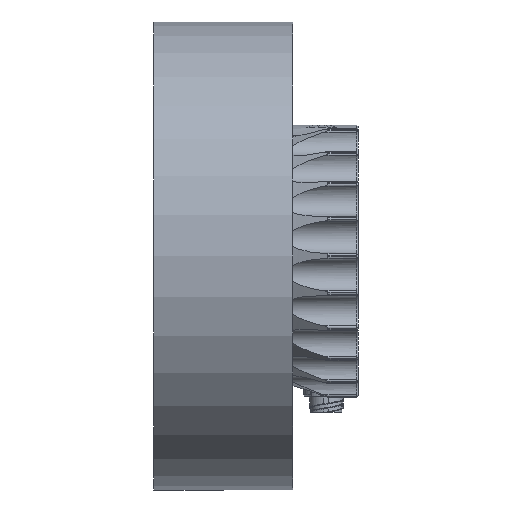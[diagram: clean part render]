
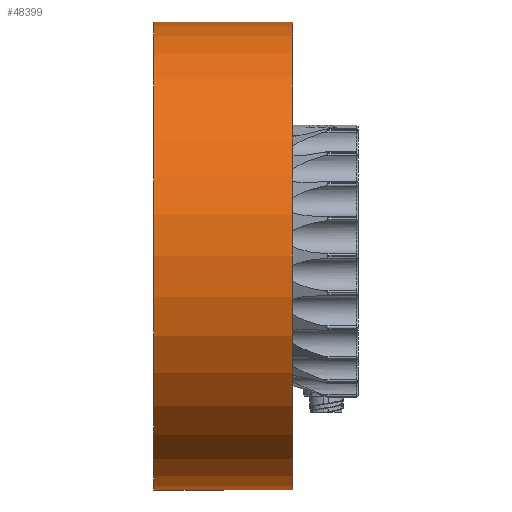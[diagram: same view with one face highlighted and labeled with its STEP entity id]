
A CAD part, left-side view. The second image highlights one B-rep face of the part: STEP entity #48399.
In plain terms, the highlighted cylindrical face has radius 69.759 mm (diameter 139.518 mm), a partial arc.
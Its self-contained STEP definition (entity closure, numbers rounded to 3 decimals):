
#679 = CARTESIAN_POINT ( 'NONE',  ( 0., 65.5, 0. ) ) ;
#3032 = ORIENTED_EDGE ( 'NONE', *, *, #9591, .F. ) ;
#3704 = CARTESIAN_POINT ( 'NONE',  ( 0., 60.939, 69.759 ) ) ;
#4370 = FACE_OUTER_BOUND ( 'NONE', #17974, .T. ) ;
#4532 = DIRECTION ( 'NONE',  ( 0., 1., 0. ) ) ;
#5841 = VERTEX_POINT ( 'NONE', #25900 ) ;
#9591 = EDGE_CURVE ( 'NONE', #29011, #23343, #23223, .T. ) ;
#15602 = DIRECTION ( 'NONE',  ( 0., 0., 1. ) ) ;
#16961 = EDGE_CURVE ( 'NONE', #5841, #26738, #42100, .T. ) ;
#17659 = EDGE_CURVE ( 'NONE', #29011, #5841, #34233, .T. ) ;
#17873 = AXIS2_PLACEMENT_3D ( 'NONE', #42625, #27728, #24024 ) ;
#17974 = EDGE_LOOP ( 'NONE', ( #3032, #48578, #47948, #32426 ) ) ;
#18350 = AXIS2_PLACEMENT_3D ( 'NONE', #30899, #27176, #46042 ) ;
#22303 = VECTOR ( 'NONE', #4532, 1000. ) ;
#23223 = LINE ( 'NONE', #41848, #22303 ) ;
#23343 = VERTEX_POINT ( 'NONE', #26628 ) ;
#24024 = DIRECTION ( 'NONE',  ( 0., 0., 1. ) ) ;
#25900 = CARTESIAN_POINT ( 'NONE',  ( 0., 19.517, 69.759 ) ) ;
#26628 = CARTESIAN_POINT ( 'NONE',  ( 0., 60.939, -69.759 ) ) ;
#26738 = VERTEX_POINT ( 'NONE', #3704 ) ;
#27176 = DIRECTION ( 'NONE',  ( 0., 1., 0. ) ) ;
#27728 = DIRECTION ( 'NONE',  ( 0., 1., 0. ) ) ;
#28082 = EDGE_CURVE ( 'NONE', #23343, #26738, #29752, .T. ) ;
#29011 = VERTEX_POINT ( 'NONE', #42948 ) ;
#29752 = CIRCLE ( 'NONE', #17873, 69.759 ) ;
#30899 = CARTESIAN_POINT ( 'NONE',  ( 0., 19.517, 0. ) ) ;
#31459 = DIRECTION ( 'NONE',  ( 0., 1., 0. ) ) ;
#32426 = ORIENTED_EDGE ( 'NONE', *, *, #28082, .F. ) ;
#34233 = CIRCLE ( 'NONE', #18350, 69.759 ) ;
#35140 = CARTESIAN_POINT ( 'NONE',  ( 0., 65.5, 69.759 ) ) ;
#37894 = AXIS2_PLACEMENT_3D ( 'NONE', #679, #31459, #15602 ) ;
#38645 = DIRECTION ( 'NONE',  ( 0., 1., 0. ) ) ;
#41848 = CARTESIAN_POINT ( 'NONE',  ( 0., 65.5, -69.759 ) ) ;
#41923 = CYLINDRICAL_SURFACE ( 'NONE', #37894, 69.759 ) ;
#42100 = LINE ( 'NONE', #35140, #42891 ) ;
#42625 = CARTESIAN_POINT ( 'NONE',  ( 0., 60.939, 0. ) ) ;
#42891 = VECTOR ( 'NONE', #38645, 1000. ) ;
#42948 = CARTESIAN_POINT ( 'NONE',  ( 0., 19.517, -69.759 ) ) ;
#46042 = DIRECTION ( 'NONE',  ( 0., 0., 1. ) ) ;
#47948 = ORIENTED_EDGE ( 'NONE', *, *, #16961, .T. ) ;
#48399 = ADVANCED_FACE ( 'NONE', ( #4370 ), #41923, .T. ) ;
#48578 = ORIENTED_EDGE ( 'NONE', *, *, #17659, .T. ) ;
